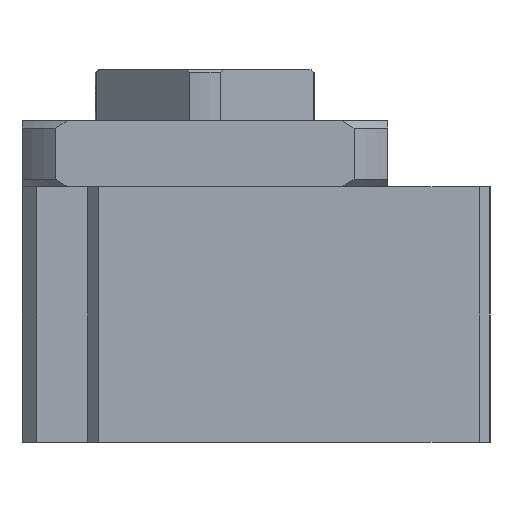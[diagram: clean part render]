
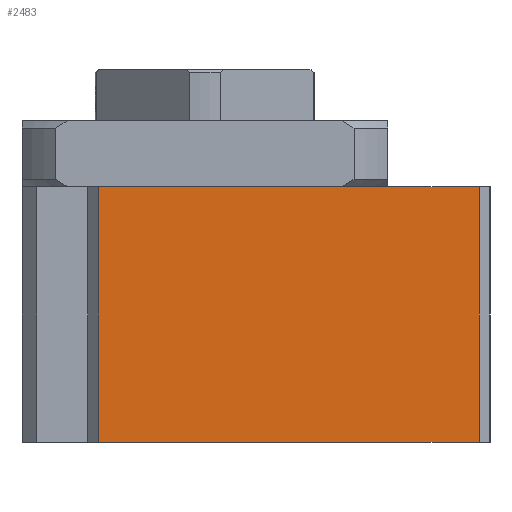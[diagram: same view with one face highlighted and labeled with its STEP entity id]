
A CAD part, left-side view. The second image highlights one B-rep face of the part: STEP entity #2483.
In plain terms, the highlighted planar face has unit normal (-1, 0, 0).
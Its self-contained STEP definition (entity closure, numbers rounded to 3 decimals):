
#128=LINE('',#3766,#316);
#141=LINE('',#3799,#329);
#142=LINE('',#3802,#330);
#143=LINE('',#3803,#331);
#316=VECTOR('',#2991,1000.);
#329=VECTOR('',#3014,1000.);
#330=VECTOR('',#3015,1000.);
#331=VECTOR('',#3016,1000.);
#496=PLANE('',#2692);
#637=ORIENTED_EDGE('',*,*,#1326,.F.);
#638=ORIENTED_EDGE('',*,*,#1327,.F.);
#639=ORIENTED_EDGE('',*,*,#1310,.T.);
#640=ORIENTED_EDGE('',*,*,#1328,.T.);
#1310=EDGE_CURVE('',#1654,#1655,#128,.T.);
#1326=EDGE_CURVE('',#1669,#1670,#141,.T.);
#1327=EDGE_CURVE('',#1654,#1669,#142,.T.);
#1328=EDGE_CURVE('',#1655,#1670,#143,.T.);
#1654=VERTEX_POINT('',#3767);
#1655=VERTEX_POINT('',#3768);
#1669=VERTEX_POINT('',#3800);
#1670=VERTEX_POINT('',#3801);
#1996=EDGE_LOOP('',(#637,#638,#639,#640));
#2224=FACE_BOUND('',#1996,.T.);
#2483=ADVANCED_FACE('',(#2224),#496,.T.);
#2692=AXIS2_PLACEMENT_3D('',#3798,#3012,#3013);
#2991=DIRECTION('',(0.,-1.,0.));
#3012=DIRECTION('',(-1.,0.,0.));
#3013=DIRECTION('',(0.,0.,1.));
#3014=DIRECTION('',(0.,-1.,0.));
#3015=DIRECTION('',(0.,0.,1.));
#3016=DIRECTION('',(0.,0.,1.));
#3766=CARTESIAN_POINT('',(-43.,14.5,-35.));
#3767=CARTESIAN_POINT('',(-43.,14.5,-35.));
#3768=CARTESIAN_POINT('',(-43.,-37.5,-35.));
#3798=CARTESIAN_POINT('',(-43.,14.5,-35.));
#3799=CARTESIAN_POINT('',(-43.,14.5,0.));
#3800=CARTESIAN_POINT('',(-43.,14.5,0.));
#3801=CARTESIAN_POINT('',(-43.,-37.5,0.));
#3802=CARTESIAN_POINT('',(-43.,14.5,-35.));
#3803=CARTESIAN_POINT('',(-43.,-37.5,-35.));
